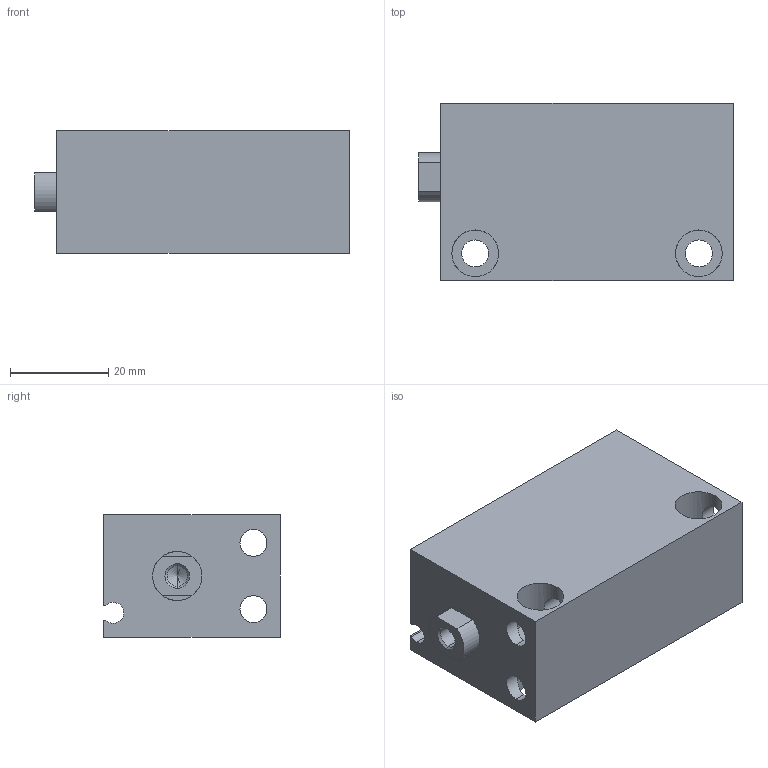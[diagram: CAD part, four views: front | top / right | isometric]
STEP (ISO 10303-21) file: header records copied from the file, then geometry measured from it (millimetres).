
FILE_DESCRIPTION (( 'STEP AP203' ), '1' );
FILE_NAME ('CLJB20-40.STEP', '2020-07-30T19:27:18', ( '' ), ( '' ), 'SwSTEP 2.0', 'SolidWorks 2019', '' );
FILE_SCHEMA (( 'CONFIG_CONTROL_DESIGN' ));
Length unit declared in the file: millimetre
Products named in the file (1): CLJB20-40
Bounding box: 64 x 36 x 25 mm (x, y, z)
Volume: 38529.3 mm3; surface area: 17769.5 mm2
Topology: 2 solids, 2 shells, 75 faces, 188 edges, 113 vertices
Faces by surface type: cylinder 41, plane 22, cone 12
Entity records: 3255 total; most frequent: CARTESIAN_POINT 1359, DIRECTION 394, ORIENTED_EDGE 364, EDGE_CURVE 182, AXIS2_PLACEMENT_3D 152, VERTEX_POINT 113, EDGE_LOOP 93, LINE 90
